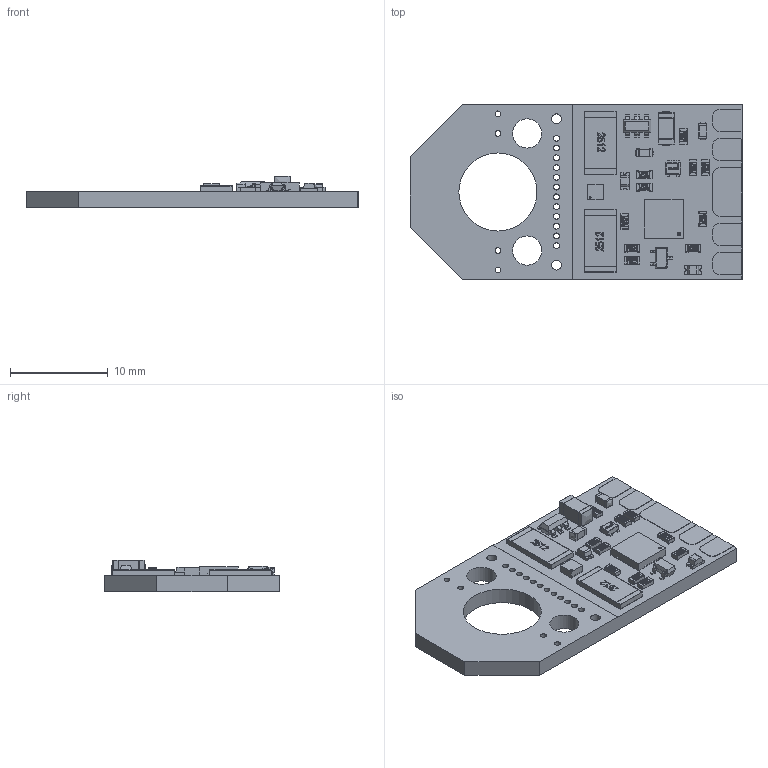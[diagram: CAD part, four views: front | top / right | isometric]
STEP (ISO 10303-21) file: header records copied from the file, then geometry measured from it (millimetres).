
FILE_DESCRIPTION(/* description */ (''),/* implementation_level */ '2;1');
FILE_NAME(/* name */ 'C:/Users/Justinas/Desktop/CM021A.step',/* time_stamp */ '2021-06-09T13:36:42+03:00',/* author */ (''),/* organization */ (''),/* preprocessor_version */ 'ST-DEVELOPER v18.1',/* originating_system */ 'Autodesk Translation Framework v10.9.0.1377',/* authorisation */ '');
FILE_SCHEMA (('AUTOMOTIVE_DESIGN { 1 0 10303 214 3 1 1 }'));
Length unit declared in the file: millimetre
Products named in the file (47): PCB; Board; U1; QFN20-4x4; U2; SOT23-6; R12; R11; RES2512; R10; R9; R8; R7; R6; R5; R4; R3; R2; R1; RES0603; Q2; User_Library-SC75-6L; Q1; SOT323_(sc70); D3; LED_Red_0603; User_Library-LTST-C190EKT_Pad; User_Library-LTST-C190EKT_Pad005; User_Library-LTST-C190EKT_Pad001; User_Library-LTST-C190EKT_Pad004; User_Library-LTST-C190EKT_Pad003; User_Library-LTST-C190EKT_Lens; D2; LED_Green_0603; User_Library-LTST-C190GKT_Pad005; User_Library-LTST-C190GKT_Pad001; User_Library-LTST-C190GKT_Pad004; User_Library-LTST-C190GKT_Pad003; User_Library-LTST-C190GKT_Lens; User_Library-LTST-C190GKT_Pad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
Assembly tree (57 placements, depth 4):
  PCB
    Board
    U1
      QFN20-4x4
    U2
      SOT23-6
    R12
      RES2512
    R11
      RES2512
    R10
      RES0603
    R9
      RES0603
    R8
      RES0603
    R7
      RES0603
    R6
      RES0603
    R5
      RES0603
    R4
      RES0603
    R3
      RES0603
    R2
      RES0603
    R1
      RES0603
    Q2
      User_Library-SC75-6L
    Q1
      SOT323_(sc70)
    D3
      LED_Red_0603
        User_Library-LTST-C190EKT_Pad
        User_Library-LTST-C190EKT_Pad005
        User_Library-LTST-C190EKT_Pad001
        User_Library-LTST-C190EKT_Pad004
        User_Library-LTST-C190EKT_Pad003
        User_Library-LTST-C190EKT_Lens
    D2
      LED_Green_0603
        User_Library-LTST-C190GKT_Pad005
        User_Library-LTST-C190GKT_Pad001
        User_Library-LTST-C190GKT_Pad004
        User_Library-LTST-C190GKT_Pad003
        User_Library-LTST-C190GKT_Lens
        User_Library-LTST-C190GKT_Pad
    D1
      SOT665
    C3
      C0603
    C2
      C0603
    C1
      C1206
Bounding box: 34.02 x 18.02 x 3.26 mm (x, y, z)
Volume: 922.3 mm3; surface area: 1812.6 mm2
Topology: 79 solids, 79 shells, 2842 faces, 7039 edges, 4309 vertices
Faces by surface type: plane 1485, cylinder 718, bspline 402, sphere 236, cone 1
Full cylindrical faces by diameter (mm): 0.2 x1, 0.6 x16, 1 x2, 3 x2, 8 x1
Entity records: 39959 total; most frequent: CARTESIAN_POINT 12294, ORIENTED_EDGE 5536, DIRECTION 5116, EDGE_CURVE 2768, LINE 1934, VECTOR 1934, VERTEX_POINT 1799, AXIS2_PLACEMENT_3D 1591
